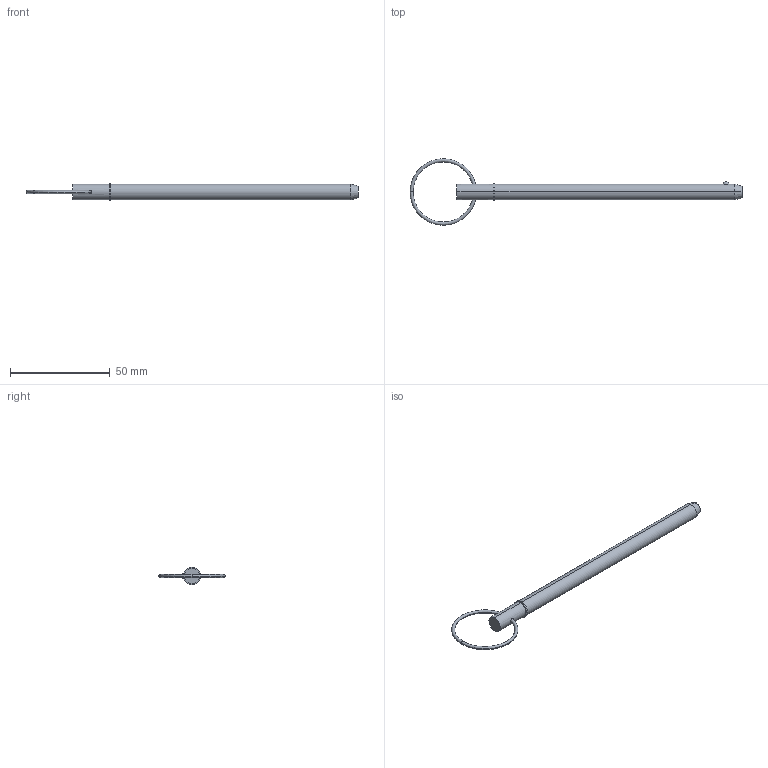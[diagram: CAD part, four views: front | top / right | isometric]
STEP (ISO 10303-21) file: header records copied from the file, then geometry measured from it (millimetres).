
FILE_DESCRIPTION (( 'STEP AP203' ), '1' );
FILE_NAME ('33014.W3145.step', '2024-11-04T08:25:33', ( '' ), ( '' ), 'SwSTEP 2.0', 'SolidWorks 2019', '' );
FILE_SCHEMA (( 'CONFIG_CONTROL_DESIGN' ));
Length unit declared in the file: millimetre
Products named in the file (3): Part1_33014.W3145; 33014.W3145; Part2_33014.W3145
Assembly tree (2 placements, depth 2):
  33014.W3145
    Part1_33014.W3145
    Part2_33014.W3145
Bounding box: 166.42 x 33.34 x 8.73 mm (x, y, z)
Volume: 7219.1 mm3; surface area: 4201.1 mm2
Topology: 2 solids, 2 shells, 22 faces, 43 edges, 26 vertices
Faces by surface type: torus 8, cylinder 6, plane 4, sphere 2, cone 2
Entity records: 989 total; most frequent: CARTESIAN_POINT 212, DIRECTION 120, ORIENTED_EDGE 86, AXIS2_PLACEMENT_3D 56, EDGE_CURVE 43, CIRCLE 29, EDGE_LOOP 27, VERTEX_POINT 26
